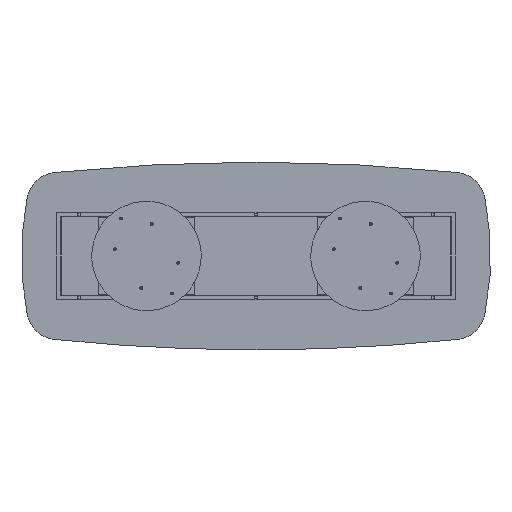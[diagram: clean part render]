
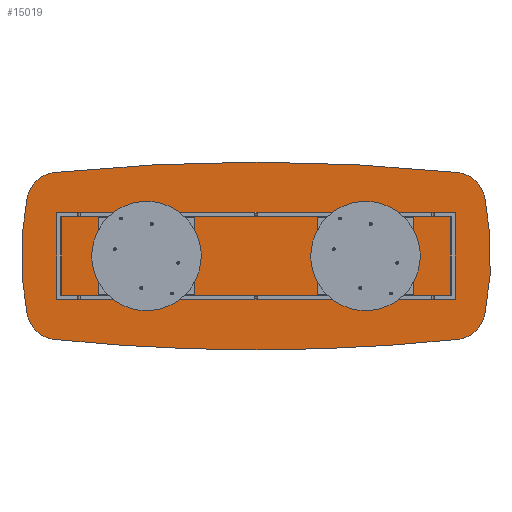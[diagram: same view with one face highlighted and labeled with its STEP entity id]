
A CAD part, front view. The second image highlights one B-rep face of the part: STEP entity #15019.
In plain terms, the highlighted planar face has unit normal (0, -1, 0).
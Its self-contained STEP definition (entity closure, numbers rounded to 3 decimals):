
#34 = CARTESIAN_POINT ( 'NONE',  ( 0., 0., 11900. ) ) ;
#455 = CARTESIAN_POINT ( 'NONE',  ( -1287.344, 0., 533.533 ) ) ;
#489 = AXIS2_PLACEMENT_3D ( 'NONE', #10870, #1075, #7642 ) ;
#869 = ORIENTED_EDGE ( 'NONE', *, *, #5375, .F. ) ;
#903 = EDGE_CURVE ( 'NONE', #12290, #932, #17085, .T. ) ;
#932 = VERTEX_POINT ( 'NONE', #10557 ) ;
#1075 = DIRECTION ( 'NONE',  ( 0., 1., 0. ) ) ;
#1390 = CARTESIAN_POINT ( 'NONE',  ( 1266.747, 0., -334.597 ) ) ;
#1909 = DIRECTION ( 'NONE',  ( 0., 0., 1. ) ) ;
#1948 = DIRECTION ( 'NONE',  ( 0., 1., 0. ) ) ;
#1960 = DIRECTION ( 'NONE',  ( 0., 0., 1. ) ) ;
#2058 = CARTESIAN_POINT ( 'NONE',  ( 0., 0., 11900. ) ) ;
#2137 = DIRECTION ( 'NONE',  ( 0., 0., 1. ) ) ;
#2230 = DIRECTION ( 'NONE',  ( 0., 1., 0. ) ) ;
#2404 = EDGE_CURVE ( 'NONE', #10488, #4088, #12672, .T. ) ;
#3843 = VERTEX_POINT ( 'NONE', #19151 ) ;
#4088 = VERTEX_POINT ( 'NONE', #13318 ) ;
#4212 = AXIS2_PLACEMENT_3D ( 'NONE', #8026, #19759, #18142 ) ;
#5375 = EDGE_CURVE ( 'NONE', #18350, #4088, #19681, .T. ) ;
#6387 = CARTESIAN_POINT ( 'NONE',  ( 1462.835, 0., 373.961 ) ) ;
#6483 = ORIENTED_EDGE ( 'NONE', *, *, #17562, .T. ) ;
#7004 = AXIS2_PLACEMENT_3D ( 'NONE', #2058, #1948, #18865 ) ;
#7310 = EDGE_CURVE ( 'NONE', #10488, #21050, #18342, .T. ) ;
#7368 = EDGE_CURVE ( 'NONE', #21050, #12955, #9063, .T. ) ;
#7499 = CIRCLE ( 'NONE', #10242, 1900. ) ;
#7535 = PLANE ( 'NONE',  #489 ) ;
#7642 = DIRECTION ( 'NONE',  ( 0., 0., 1. ) ) ;
#7745 = AXIS2_PLACEMENT_3D ( 'NONE', #8751, #13283, #1960 ) ;
#7958 = DIRECTION ( 'NONE',  ( 0., -1., 0. ) ) ;
#8026 = CARTESIAN_POINT ( 'NONE',  ( -400., 0., 0. ) ) ;
#8457 = DIRECTION ( 'NONE',  ( 0., -1., 0. ) ) ;
#8636 = EDGE_LOOP ( 'NONE', ( #14114, #21114, #17693, #6483, #11851, #11917, #13321, #869, #8779 ) ) ;
#8751 = CARTESIAN_POINT ( 'NONE',  ( -1266.747, 0., -334.597 ) ) ;
#8779 = ORIENTED_EDGE ( 'NONE', *, *, #14633, .T. ) ;
#9063 = CIRCLE ( 'NONE', #7004, 12500. ) ;
#9928 = DIRECTION ( 'NONE',  ( 0., 1., 0. ) ) ;
#10242 = AXIS2_PLACEMENT_3D ( 'NONE', #18283, #2230, #1909 ) ;
#10488 = VERTEX_POINT ( 'NONE', #17036 ) ;
#10557 = CARTESIAN_POINT ( 'NONE',  ( -1462.835, 0., 373.961 ) ) ;
#10700 = EDGE_CURVE ( 'NONE', #12290, #3843, #20485, .T. ) ;
#10870 = CARTESIAN_POINT ( 'NONE',  ( -200., 0., 5950. ) ) ;
#11473 = CIRCLE ( 'NONE', #19389, 200. ) ;
#11476 = CARTESIAN_POINT ( 'NONE',  ( -1287.344, 0., -533.533 ) ) ;
#11572 = AXIS2_PLACEMENT_3D ( 'NONE', #20981, #19574, #17963 ) ;
#11844 = DIRECTION ( 'NONE',  ( 0., 1., 0. ) ) ;
#11851 = ORIENTED_EDGE ( 'NONE', *, *, #7368, .F. ) ;
#11917 = ORIENTED_EDGE ( 'NONE', *, *, #7310, .F. ) ;
#12290 = VERTEX_POINT ( 'NONE', #455 ) ;
#12672 = CIRCLE ( 'NONE', #15059, 200. ) ;
#12955 = VERTEX_POINT ( 'NONE', #11476 ) ;
#13038 = CARTESIAN_POINT ( 'NONE',  ( -1462.835, 0., -373.961 ) ) ;
#13164 = DIRECTION ( 'NONE',  ( 0., 0., 1. ) ) ;
#13283 = DIRECTION ( 'NONE',  ( 0., -1., 0. ) ) ;
#13305 = CARTESIAN_POINT ( 'NONE',  ( 1266.747, 0., 334.597 ) ) ;
#13318 = CARTESIAN_POINT ( 'NONE',  ( 1462.835, 0., -373.961 ) ) ;
#13321 = ORIENTED_EDGE ( 'NONE', *, *, #2404, .T. ) ;
#14114 = ORIENTED_EDGE ( 'NONE', *, *, #10700, .F. ) ;
#14633 = EDGE_CURVE ( 'NONE', #18350, #3843, #11473, .T. ) ;
#15012 = DIRECTION ( 'NONE',  ( 0., 0., 1. ) ) ;
#15019 = ADVANCED_FACE ( 'NONE', ( #15706 ), #7535, .F. ) ;
#15059 = AXIS2_PLACEMENT_3D ( 'NONE', #1390, #7958, #17554 ) ;
#15273 = CARTESIAN_POINT ( 'NONE',  ( 0., 0., -11900. ) ) ;
#15706 = FACE_OUTER_BOUND ( 'NONE', #8636, .T. ) ;
#16864 = CARTESIAN_POINT ( 'NONE',  ( 0., 0., -600. ) ) ;
#17036 = CARTESIAN_POINT ( 'NONE',  ( 1287.344, 0., -533.533 ) ) ;
#17085 = CIRCLE ( 'NONE', #11572, 200. ) ;
#17326 = AXIS2_PLACEMENT_3D ( 'NONE', #34, #9928, #13164 ) ;
#17554 = DIRECTION ( 'NONE',  ( 0., 0., 1. ) ) ;
#17562 = EDGE_CURVE ( 'NONE', #18803, #12955, #21136, .T. ) ;
#17693 = ORIENTED_EDGE ( 'NONE', *, *, #20614, .F. ) ;
#17963 = DIRECTION ( 'NONE',  ( 0., 0., 1. ) ) ;
#18142 = DIRECTION ( 'NONE',  ( 0., 0., 1. ) ) ;
#18283 = CARTESIAN_POINT ( 'NONE',  ( 400., 0., 0. ) ) ;
#18342 = CIRCLE ( 'NONE', #17326, 12500. ) ;
#18350 = VERTEX_POINT ( 'NONE', #6387 ) ;
#18803 = VERTEX_POINT ( 'NONE', #13038 ) ;
#18865 = DIRECTION ( 'NONE',  ( 0., 0., 1. ) ) ;
#19151 = CARTESIAN_POINT ( 'NONE',  ( 1287.344, 0., 533.533 ) ) ;
#19389 = AXIS2_PLACEMENT_3D ( 'NONE', #13305, #8457, #15012 ) ;
#19435 = AXIS2_PLACEMENT_3D ( 'NONE', #15273, #11844, #2137 ) ;
#19574 = DIRECTION ( 'NONE',  ( 0., -1., 0. ) ) ;
#19681 = CIRCLE ( 'NONE', #4212, 1900. ) ;
#19759 = DIRECTION ( 'NONE',  ( 0., 1., 0. ) ) ;
#20485 = CIRCLE ( 'NONE', #19435, 12500. ) ;
#20614 = EDGE_CURVE ( 'NONE', #18803, #932, #7499, .T. ) ;
#20981 = CARTESIAN_POINT ( 'NONE',  ( -1266.747, 0., 334.597 ) ) ;
#21050 = VERTEX_POINT ( 'NONE', #16864 ) ;
#21114 = ORIENTED_EDGE ( 'NONE', *, *, #903, .T. ) ;
#21136 = CIRCLE ( 'NONE', #7745, 200. ) ;
